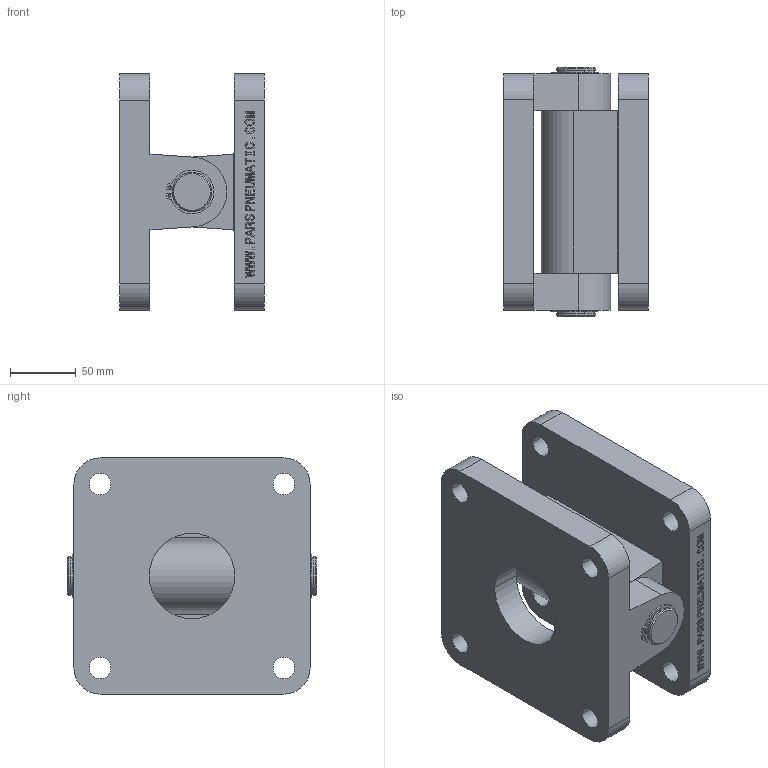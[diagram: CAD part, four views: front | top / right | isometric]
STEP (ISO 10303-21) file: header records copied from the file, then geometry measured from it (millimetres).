
FILE_DESCRIPTION(('CATIA V5 STEP Exchange'),'2;1');
FILE_NAME('D:\stp file for catalog\BAST-CAB\CAB 160.stp','2018-06-13T06:15:29+00:00',('none'),('none'),'CATIA Version 5-6 Release 2016','CATIA V5 STEP AP203','none');
FILE_SCHEMA(('CONFIG_CONTROL_DESIGN'));
Length unit declared in the file: millimetre
Products named in the file (1): PNC-CAB 160
Assembly tree (6 placements, depth 2):
  PNC-CAB 160
    #57
    #13926
    #14932
    #14955
    #15424
    #16054
Bounding box: 110 x 190 x 180 mm (x, y, z)
Volume: 1883643.4 mm3; surface area: 231251.8 mm2
Topology: 5 solids, 5 shells, 547 faces, 1511 edges, 1006 vertices
Faces by surface type: plane 466, cylinder 77, cone 4
Entity records: 16661 total; most frequent: ORIENTED_EDGE 3022, CARTESIAN_POINT 2980, DIRECTION 2365, EDGE_CURVE 1511, VECTOR 1353, LINE 1353, VERTEX_POINT 1006, EDGE_LOOP 611
